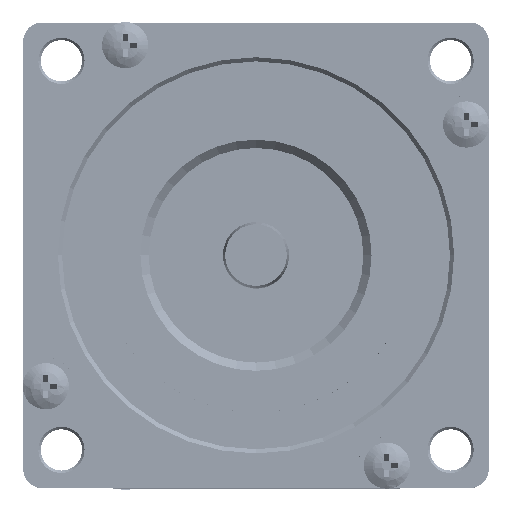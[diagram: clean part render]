
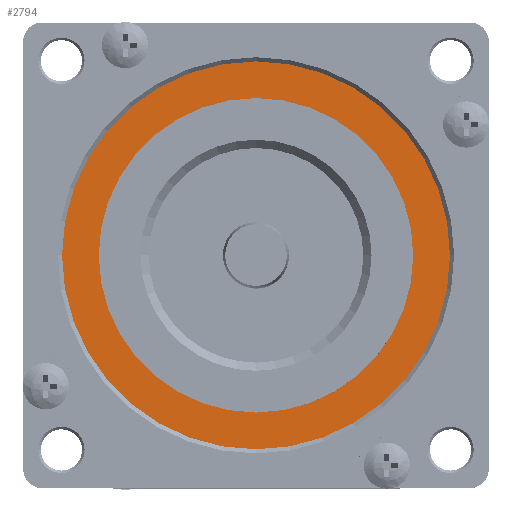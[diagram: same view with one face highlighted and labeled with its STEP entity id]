
A CAD part, top view. The second image highlights one B-rep face of the part: STEP entity #2794.
In plain terms, the highlighted planar face has unit normal (0, 0, 1).
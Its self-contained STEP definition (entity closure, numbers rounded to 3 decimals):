
#1061=CARTESIAN_POINT('',(0.,0.,10.));
#1062=DIRECTION('',(0.,0.,-1.));
#1063=DIRECTION('',(-1.,0.,0.));
#1064=AXIS2_PLACEMENT_3D('',#1061,#1062,#1063);
#1066=CARTESIAN_POINT('',(0.,0.,10.));
#1067=DIRECTION('',(0.,0.,-1.));
#1068=DIRECTION('',(0.,1.,0.));
#1069=AXIS2_PLACEMENT_3D('',#1066,#1067,#1068);
#1071=CARTESIAN_POINT('',(0.,0.,10.));
#1072=DIRECTION('',(0.,0.,-1.));
#1073=DIRECTION('',(1.,0.,0.));
#1074=AXIS2_PLACEMENT_3D('',#1071,#1072,#1073);
#1076=CARTESIAN_POINT('',(0.,0.,10.));
#1077=DIRECTION('',(0.,0.,-1.));
#1078=DIRECTION('',(0.,-1.,0.));
#1079=AXIS2_PLACEMENT_3D('',#1076,#1077,#1078);
#1081=CARTESIAN_POINT('',(0.,0.,10.));
#1082=DIRECTION('',(0.,0.,1.));
#1083=DIRECTION('',(1.,0.,0.));
#1084=AXIS2_PLACEMENT_3D('',#1081,#1082,#1083);
#1086=CARTESIAN_POINT('',(0.,0.,10.));
#1087=DIRECTION('',(0.,0.,1.));
#1088=DIRECTION('',(0.,1.,0.));
#1089=AXIS2_PLACEMENT_3D('',#1086,#1087,#1088);
#1091=CARTESIAN_POINT('',(0.,0.,10.));
#1092=DIRECTION('',(0.,0.,1.));
#1093=DIRECTION('',(-1.,0.,0.));
#1094=AXIS2_PLACEMENT_3D('',#1091,#1092,#1093);
#1096=CARTESIAN_POINT('',(0.,0.,10.));
#1097=DIRECTION('',(0.,0.,1.));
#1098=DIRECTION('',(0.,-1.,0.));
#1099=AXIS2_PLACEMENT_3D('',#1096,#1097,#1098);
#1485=CARTESIAN_POINT('',(-19.05,0.,10.));
#1486=VERTEX_POINT('',#1485);
#1487=CARTESIAN_POINT('',(0.,19.05,10.));
#1488=VERTEX_POINT('',#1487);
#1489=CARTESIAN_POINT('',(19.05,0.,10.));
#1490=VERTEX_POINT('',#1489);
#1495=CARTESIAN_POINT('',(0.,-19.05,10.));
#1496=VERTEX_POINT('',#1495);
#1561=CARTESIAN_POINT('',(-23.5,0.,10.));
#1562=CARTESIAN_POINT('',(0.,23.5,10.));
#1563=VERTEX_POINT('',#1561);
#1564=VERTEX_POINT('',#1562);
#1565=CARTESIAN_POINT('',(23.5,0.,10.));
#1566=VERTEX_POINT('',#1565);
#1567=CARTESIAN_POINT('',(0.,-23.5,10.));
#1568=VERTEX_POINT('',#1567);
#2773=CARTESIAN_POINT('',(0.,0.,10.));
#2774=DIRECTION('',(0.,0.,1.));
#2775=DIRECTION('',(-1.,0.,0.));
#2776=AXIS2_PLACEMENT_3D('',#2773,#2774,#2775);
#2777=PLANE('',#2776);
#2778=ORIENTED_EDGE('',*,*,#2750,.T.);
#2779=ORIENTED_EDGE('',*,*,#2748,.T.);
#2780=ORIENTED_EDGE('',*,*,#2767,.T.);
#2781=ORIENTED_EDGE('',*,*,#2765,.T.);
#2782=EDGE_LOOP('',(#2778,#2779,#2780,#2781));
#2783=FACE_OUTER_BOUND('',#2782,.F.);
#2785=ORIENTED_EDGE('',*,*,#2784,.T.);
#2787=ORIENTED_EDGE('',*,*,#2786,.T.);
#2789=ORIENTED_EDGE('',*,*,#2788,.T.);
#2791=ORIENTED_EDGE('',*,*,#2790,.T.);
#2792=EDGE_LOOP('',(#2785,#2787,#2789,#2791));
#2793=FACE_BOUND('',#2792,.F.);
#2794=ADVANCED_FACE('',(#2783,#2793),#2777,.T.);
#1065=CIRCLE('',#1064,23.5);
#1070=CIRCLE('',#1069,23.5);
#1075=CIRCLE('',#1074,23.5);
#1080=CIRCLE('',#1079,23.5);
#1085=CIRCLE('',#1084,19.05);
#1090=CIRCLE('',#1089,19.05);
#1095=CIRCLE('',#1094,19.05);
#1100=CIRCLE('',#1099,19.05);
#2748=EDGE_CURVE('',#1564,#1566,#1070,.T.);
#2750=EDGE_CURVE('',#1563,#1564,#1065,.T.);
#2765=EDGE_CURVE('',#1568,#1563,#1080,.T.);
#2767=EDGE_CURVE('',#1566,#1568,#1075,.T.);
#2784=EDGE_CURVE('',#1490,#1488,#1085,.T.);
#2786=EDGE_CURVE('',#1488,#1486,#1090,.T.);
#2788=EDGE_CURVE('',#1486,#1496,#1095,.T.);
#2790=EDGE_CURVE('',#1496,#1490,#1100,.T.);
